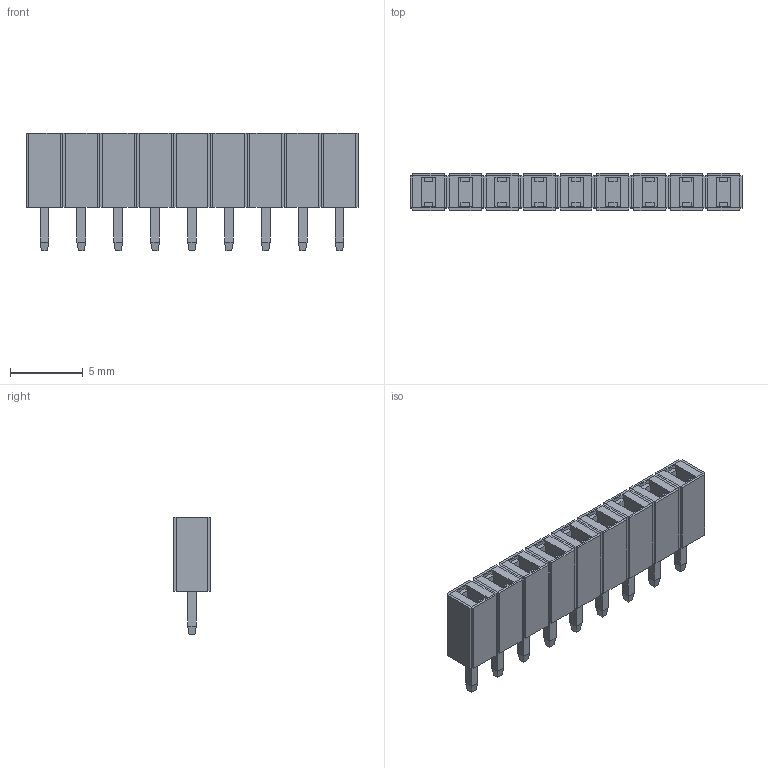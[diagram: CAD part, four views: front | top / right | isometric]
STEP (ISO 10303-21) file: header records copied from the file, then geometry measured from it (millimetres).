
FILE_DESCRIPTION(('FreeCAD Model'),'2;1');
FILE_NAME('Open CASCADE Shape Model','2021-08-03T16:32:10',('Author'),( ''),'Open CASCADE STEP processor 7.5','FreeCAD','Unknown');
FILE_SCHEMA(('AUTOMOTIVE_DESIGN { 1 0 10303 214 1 1 1 1 }'));
Length unit declared in the file: millimetre
Products named in the file (1): Group009
Bounding box: 22.86 x 2.54 x 8.1 mm (x, y, z)
Volume: 240.3 mm3; surface area: 718.9 mm2
Topology: 1 solids, 1 shells, 380 faces, 868 edges, 508 vertices
Faces by surface type: plane 380
Entity records: 23325 total; most frequent: CARTESIAN_POINT 3745, DIRECTION 3114, LINE 2352, VECTOR 2352, ORIENTED_EDGE 1736, PCURVE 1736, DEFINITIONAL_REPRESENTATION 1736, EDGE_CURVE 868
